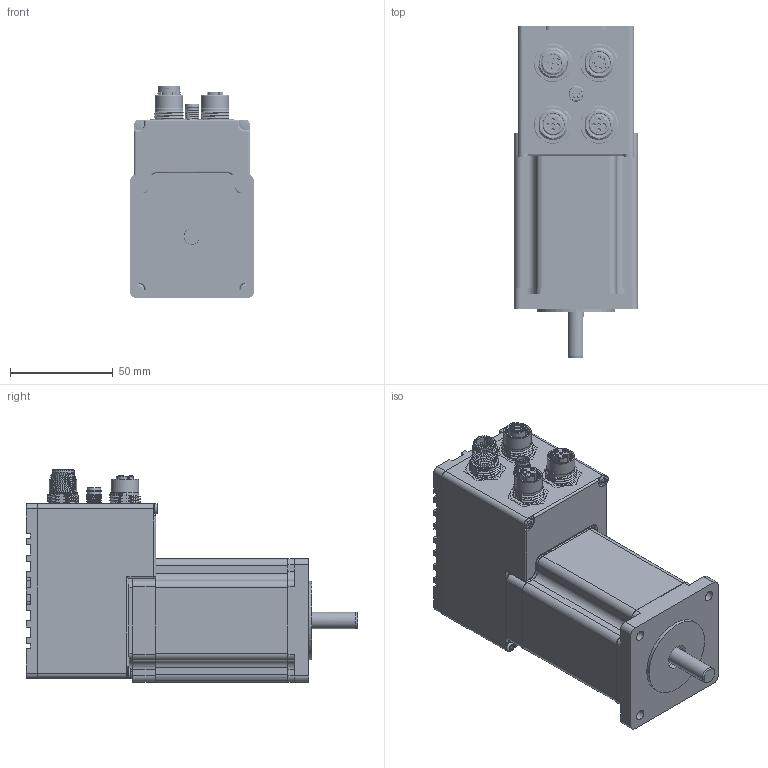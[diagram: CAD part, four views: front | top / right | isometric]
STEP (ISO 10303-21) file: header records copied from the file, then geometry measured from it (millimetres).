
FILE_DESCRIPTION(/* description */ ('Unknown'),/* implementation_level */ '2;1');
FILE_NAME(/* name */ 'SM4D260PH272DM0',/* time_stamp */ '2021-08-31T10:44:32+02:00',/* author */ ('Unknown'),/* organization */ ('Unknown'),/* preprocessor_version */ 'ST-DEVELOPER v16.7',/* originating_system */ 'Solid Edge',/* authorisation */ 'Unknown');
FILE_SCHEMA (('AUTOMOTIVE_DESIGN {1 0 10303 214 3 1 1}'));
Products named in the file (24): SM4D2 con IMD12; dissipatore_imd12_2prot; scatola_sm4d2xx_imd12_2prot; imd12_guarnizione_dissipatore; mica_imd12; hexdist_MF_M2e5 x 12mm; tcc_M2e5x05; tcc_M3x08; imd12_piana_motore; MSDS-04PFFP-SF8001-STP; 8-04pmms-sf7001; 8-04PMMS-SF7001; M12A-05PMMS-SF8001-STP; M12A-08PFFS-SF8001-STP; tcc_M2e5x60; tcc_M2e5x47; MT24HE35042A4Z1; MT24HE35042A4Z1_ASM_1_ASM; MT24HE35042A4LC_ASM_1_ASM_1_ASM; ASM0001_ASM_1_ASM_1_ASM_1_ASM; STATOR_1_1_1; NEMA24STANDARDENDBELL1_1_1_1; NEMA24STANDARDENDBELL2_1_1_1; SHAFT-1_1_1_1
Assembly tree (35 placements, depth 6):
  SM4D2 con IMD12
    dissipatore_imd12_2prot
    scatola_sm4d2xx_imd12_2prot
    imd12_guarnizione_dissipatore
    mica_imd12  x2
    hexdist_MF_M2e5 x 12mm  x3
    tcc_M2e5x05  x4
    tcc_M3x08  x4
    imd12_piana_motore
    MSDS-04PFFP-SF8001-STP  x2
    8-04pmms-sf7001
      8-04PMMS-SF7001
    M12A-05PMMS-SF8001-STP
    M12A-08PFFS-SF8001-STP
    tcc_M2e5x60  x2
    tcc_M2e5x47  x2
    MT24HE35042A4Z1
      MT24HE35042A4Z1_ASM_1_ASM
        MT24HE35042A4LC_ASM_1_ASM_1_ASM
          ASM0001_ASM_1_ASM_1_ASM_1_ASM
            STATOR_1_1_1
            NEMA24STANDARDENDBELL1_1_1_1
            NEMA24STANDARDENDBELL2_1_1_1
            SHAFT-1_1_1_1
Bounding box: 60 x 161.28 x 103.2 mm (x, y, z)
Volume: 211507.1 mm3; surface area: 154160.8 mm2
Topology: 33 solids, 38 shells, 4136 faces, 11221 edges, 7435 vertices
Faces by surface type: plane 1983, cylinder 1028, bspline 777, cone 239, torus 60, sphere 49
Full cylindrical faces by diameter (mm): 0.8 x20, 1 x24, 1.05 x8, 1.2 x12, 1.25 x8, 1.4 x4, 1.42 x8, 1.45 x5, 1.5 x12, 1.55 x16, 1.6 x8, 1.62 x8, 1.78 x8, 2 x2, 2.05 x4, 2.5 x22, 2.7 x4, 3 x16, 3.2 x8, 5 x13, 5.75 x3, 5.8 x1, 6 x4, 6.35 x1, 6.5 x1, 6.9 x1, 8 x1, 8.2 x3, 8.3 x1, 8.6 x1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
Entity records: 148320 total; most frequent: CARTESIAN_POINT 57084, ORIENTED_EDGE 17458, DIRECTION 13275, EDGE_CURVE 8733, VERTEX_POINT 5959, LINE 4435, VECTOR 4435, AXIS2_PLACEMENT_3D 4420
